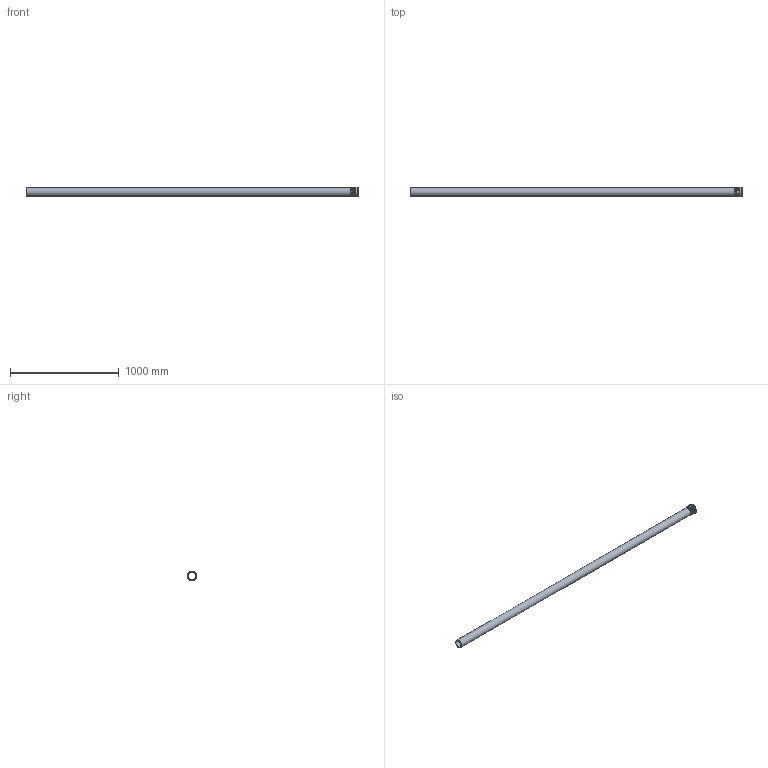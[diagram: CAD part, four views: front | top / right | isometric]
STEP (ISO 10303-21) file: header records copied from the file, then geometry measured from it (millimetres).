
FILE_DESCRIPTION(/* description */ (''),/* implementation_level */ '2;1');
FILE_NAME(/* name */ 'H:\Geberit-Teile\Export\PP_Rohr\stp\393307.stp',/* time_stamp */ '2017-02-13T16:06:47+01:00',/* author */ ('seihe2'),/* organization */ (''),/* preprocessor_version */ 'ST-DEVELOPER v15.2',/* originating_system */ 'Autodesk Inventor 2014',/* authorisation */ '');
FILE_SCHEMA (('AUTOMOTIVE_DESIGN { 1 0 10303 214 3 1 1 }'));
Length unit declared in the file: millimetre
Products named in the file (1): 393307
Bounding box: 3055.7 x 91 x 91 mm (x, y, z)
Volume: 2621955.8 mm3; surface area: 1388294.8 mm2
Topology: 2 solids, 2 shells, 38 faces, 82 edges, 57 vertices
Faces by surface type: torus 16, cylinder 10, plane 8, cone 2, bspline 2
Full cylindrical faces by diameter (mm): 67.6 x2, 75.2 x2, 76 x1, 77.6 x1, 82.8 x1, 84.4 x1, 84.8 x1, 91 x1
Entity records: 2151 total; most frequent: CARTESIAN_POINT 1359, DIRECTION 132, ORIENTED_EDGE 130, EDGE_LOOP 68, AXIS2_PLACEMENT_3D 66, EDGE_CURVE 65, VERTEX_POINT 57, STYLED_ITEM 40
